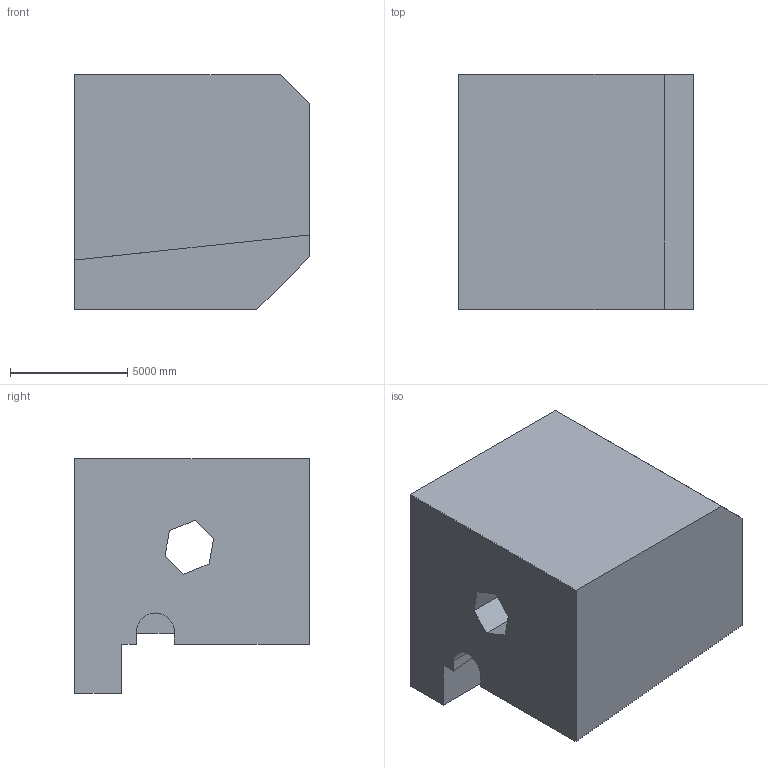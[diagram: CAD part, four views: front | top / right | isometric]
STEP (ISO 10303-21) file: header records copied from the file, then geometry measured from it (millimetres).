
FILE_DESCRIPTION (( 'STEP AP203' ), '1' );
FILE_NAME ('445.STEP', '2022-08-04T14:25:07', ( 'user' ), ( '' ), 'SwSTEP 2.0', 'SolidWorks 2021', '' );
FILE_SCHEMA (( 'CONFIG_CONTROL_DESIGN' ));
Length unit declared in the file: centimetre
Products named in the file (1): 445
Bounding box: 10000 x 10000 x 10000 mm (x, y, z)
Volume: 736808478325.1 mm3; surface area: 608826542 mm2
Topology: 1 solids, 1 shells, 21 faces, 57 edges, 38 vertices
Faces by surface type: plane 19, cylinder 2
Entity records: 736 total; most frequent: CARTESIAN_POINT 117, ORIENTED_EDGE 114, DIRECTION 105, EDGE_CURVE 57, VECTOR 53, LINE 53, VERTEX_POINT 38, AXIS2_PLACEMENT_3D 26
